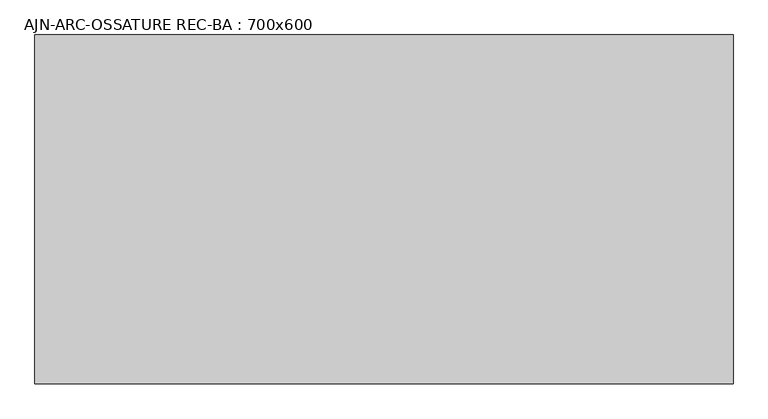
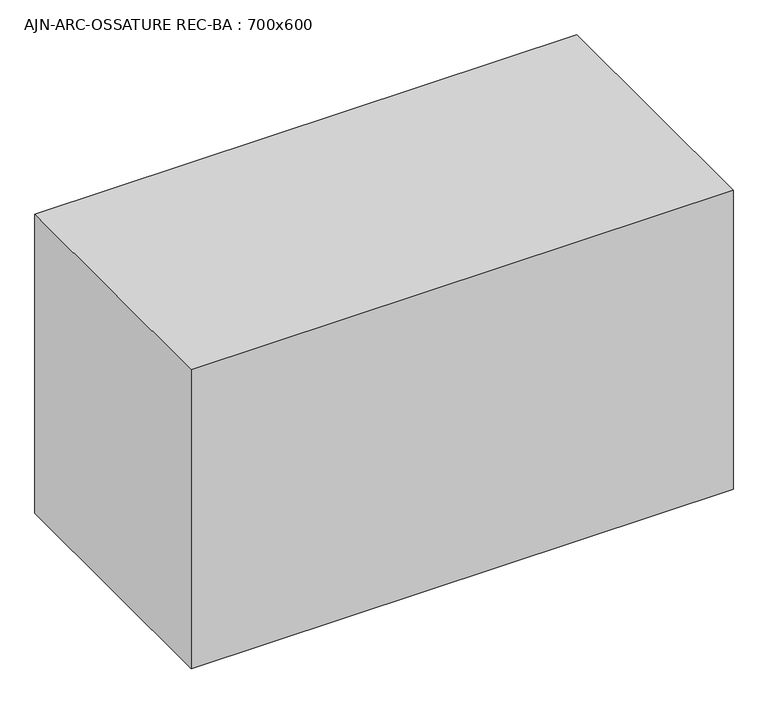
"""IFC4 building model written with IfcOpenShell, lengths in millimetres: beam geometry, AJN-ARC-OSSATURE REC-BA : 700x600."""

from ifc_helpers import new_model, si_unit, frame, origin, place, context, project, spatial, polyline, outline, extrude, source, transform, mapped, element, save


def ajn_arc_ossature_rec_ba_700x600_5242ffbb(model_context):
    return source(origin(), model_context, "Body", "SweptSolid", [
        extrude(outline(polyline([(750.0, 300.0), (750.0, -300.0), (-450.0, -300.0), (-450.0, 300.0), (750.0, 300.0)])), frame((0.0, 0.0, -350.0), z_axis=(0.0, 0.0, 1.0), x_axis=(1.0, 0.0, 0.0)), (0.0, 0.0, 1.0), 700.0),
    ])


if __name__ == "__main__":
    model = new_model("IFC4")
    model_context = context("Model", 3, world=origin())
    ifc_project = project(units=[si_unit("LENGTHUNIT", "METRE", prefix="MILLI")], contexts=[model_context])
    site = spatial("IfcSite", under=ifc_project)
    building = spatial("IfcBuilding", under=site)
    placement = place(None, origin())
    ajn_arc_ossature_rec_ba_700x600_shape = ajn_arc_ossature_rec_ba_700x600_5242ffbb(model_context)
    element("IfcBeam", 1, ObjectType="AJN-ARC-OSSATURE REC-BA : 700x600", at=placement, inside=building, context=model_context, shape_type="MappedRepresentation", body=[
        mapped(ajn_arc_ossature_rec_ba_700x600_shape, transform((0.0, 0.0, 0.0), x_axis=(1.0, 0.0, 0.0), y_axis=(0.0, 1.0, 0.0), z_axis=(0.0, 0.0, 1.0))),
    ])
    save(model, "model.ifc")
